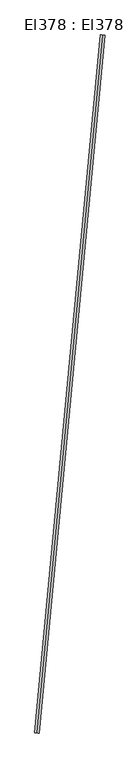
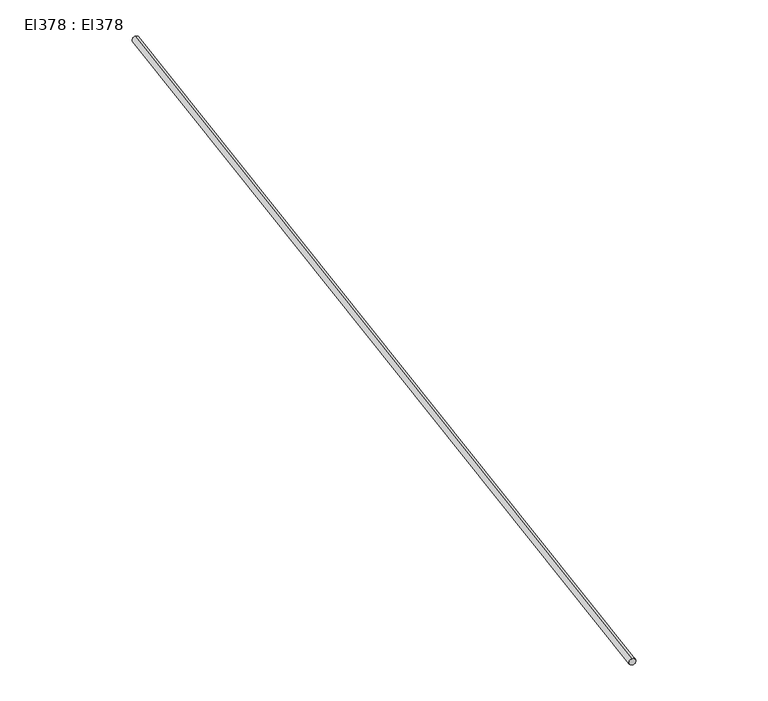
"""IFC4 building model written with IfcOpenShell, lengths in millimetres: cable carrier segment geometry, El378 : El378."""

from ifc_helpers import new_model, si_unit, point, frame, frame_2d, origin, place, context, project, spatial, circle_curve, trimmed, segment, composite_curve, outline, extrude, source, transform, mapped, element, save


def el378_el378_2cfbe50b(model_context):
    return source(origin(), model_context, "Body", "SweptSolid", [
        extrude(outline(composite_curve([segment(trimmed(circle_curve(frame_2d((0.0, -9.5)), 9.5), [point((0.0, -19.0))], [point((0.0, 0.0))], False, "CARTESIAN"), True, "CONTINUOUS"), segment(trimmed(circle_curve(frame_2d((0.0, -9.5)), 9.5), [point((0.0, 0.0))], [point((0.0, -19.0))], False, "CARTESIAN"), True, "CONTINUOUS")], self_intersect=False)), frame((541.2591441, 25175.1169855, 9.5), z_axis=(0.09403360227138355, 0.99556902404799, 0.0), x_axis=(-0.99556902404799, 0.09403360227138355, 0.0)), (0.0, 0.0, 1.0), 2969.32),
    ])


if __name__ == "__main__":
    model = new_model("IFC4")
    model_context = context("Model", 3, world=origin())
    ifc_project = project(units=[si_unit("LENGTHUNIT", "METRE", prefix="MILLI")], contexts=[model_context])
    site = spatial("IfcSite", under=ifc_project)
    building = spatial("IfcBuilding", under=site)
    placement = place(None, origin())
    el378_el378_shape = el378_el378_2cfbe50b(model_context)
    element("IfcCableCarrierSegment", 1, ObjectType="El378 : El378", at=placement, inside=building, context=model_context, shape_type="MappedRepresentation", body=[
        mapped(el378_el378_shape, transform((0.0, 0.0, 0.0), x_axis=(1.0, 0.0, 0.0), y_axis=(0.0, 1.0, 0.0), z_axis=(0.0, 0.0, 1.0))),
    ])
    save(model, "model.ifc")
